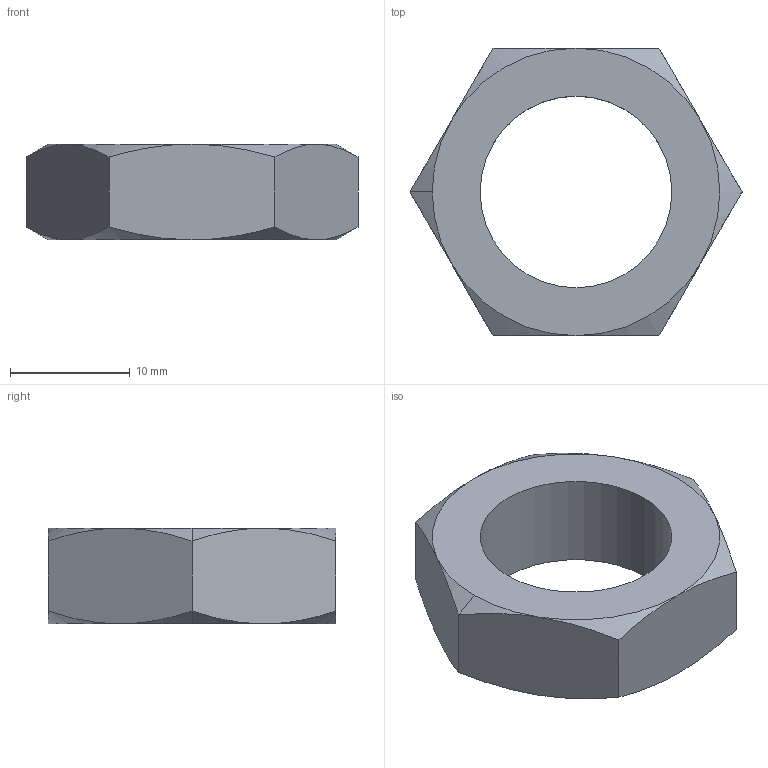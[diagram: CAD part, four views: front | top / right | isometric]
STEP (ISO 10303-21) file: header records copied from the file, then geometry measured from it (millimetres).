
FILE_DESCRIPTION (( 'STEP AP203' ), '1' );
FILE_NAME ('32700.W0518.step', '2011-03-28T12:08:13', ( 'Wixroyd' ), ( 'Wixroyd' ), 'SwSTEP 2.0', 'SolidWorks 2009', '' );
FILE_SCHEMA (( 'CONFIG_CONTROL_DESIGN' ));
Length unit declared in the file: millimetre
Products named in the file (1): 32700.W0518
Bounding box: 27.71 x 24 x 8 mm (x, y, z)
Volume: 2352.1 mm3; surface area: 1616 mm2
Topology: 1 solids, 1 shells, 24 faces, 52 edges, 30 vertices
Faces by surface type: cone 14, plane 8, cylinder 2
Entity records: 819 total; most frequent: CARTESIAN_POINT 251, ORIENTED_EDGE 104, DIRECTION 96, EDGE_CURVE 52, AXIS2_PLACEMENT_3D 43, VERTEX_POINT 30, EDGE_LOOP 26, FACE_OUTER_BOUND 24
